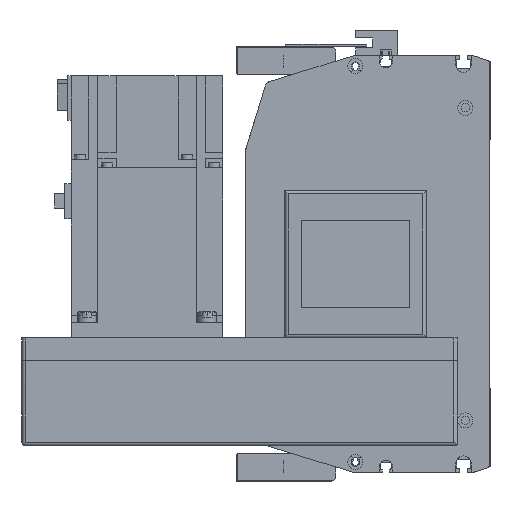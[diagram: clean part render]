
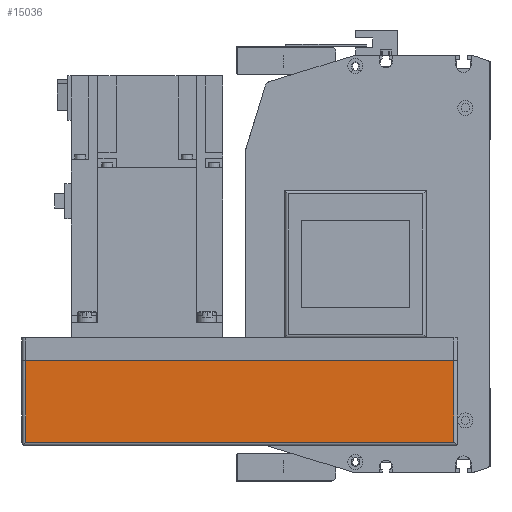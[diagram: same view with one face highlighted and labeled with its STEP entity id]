
A CAD part, left-side view. The second image highlights one B-rep face of the part: STEP entity #15036.
In plain terms, the highlighted planar face has unit normal (-1, 0, 0) as drawn and (0, -1, 0) by its records, which use the part's own axes.
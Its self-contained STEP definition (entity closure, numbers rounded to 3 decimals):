
#2435=ORIENTED_EDGE('',*,*,#6054,.F.);
#2436=ORIENTED_EDGE('',*,*,#6057,.T.);
#2437=ORIENTED_EDGE('',*,*,#6058,.T.);
#2438=ORIENTED_EDGE('',*,*,#6059,.F.);
#6054=EDGE_CURVE('',#7991,#7992,#9551,.T.);
#6057=EDGE_CURVE('',#7991,#7994,#9553,.T.);
#6058=EDGE_CURVE('',#7994,#7995,#9554,.T.);
#6059=EDGE_CURVE('',#7992,#7995,#9555,.T.);
#7991=VERTEX_POINT('',#23433);
#7992=VERTEX_POINT('',#23435);
#7994=VERTEX_POINT('',#23441);
#7995=VERTEX_POINT('',#23443);
#9551=LINE('',#23434,#10904);
#9553=LINE('',#23440,#10906);
#9554=LINE('',#23442,#10907);
#9555=LINE('',#23444,#10908);
#10904=VECTOR('',#18700,1000.);
#10906=VECTOR('',#18706,1000.);
#10907=VECTOR('',#18707,1000.);
#10908=VECTOR('',#18708,1000.);
#12082=EDGE_LOOP('',(#2435,#2436,#2437,#2438));
#13315=FACE_BOUND('',#12082,.T.);
#14404=PLANE('',#16124);
#15036=ADVANCED_FACE('',(#13315),#14404,.T.);
#16124=AXIS2_PLACEMENT_3D('',#23439,#18704,#18705);
#18700=DIRECTION('',(0.,0.,1.));
#18704=DIRECTION('',(0.,-1.,0.));
#18705=DIRECTION('',(0.,0.,-1.));
#18706=DIRECTION('',(1.,0.,0.));
#18707=DIRECTION('',(0.,0.,1.));
#18708=DIRECTION('',(1.,0.,0.));
#23433=CARTESIAN_POINT('',(-228.,-54.,-55.));
#23434=CARTESIAN_POINT('',(-228.,-54.,-57.));
#23435=CARTESIAN_POINT('',(-228.,-54.,-12.));
#23439=CARTESIAN_POINT('',(-228.,-54.,-57.));
#23440=CARTESIAN_POINT('',(-230.,-54.,-55.));
#23441=CARTESIAN_POINT('',(-2.,-54.,-55.));
#23442=CARTESIAN_POINT('',(-2.,-54.,-57.));
#23443=CARTESIAN_POINT('',(-2.,-54.,-12.));
#23444=CARTESIAN_POINT('',(-228.,-54.,-12.));
